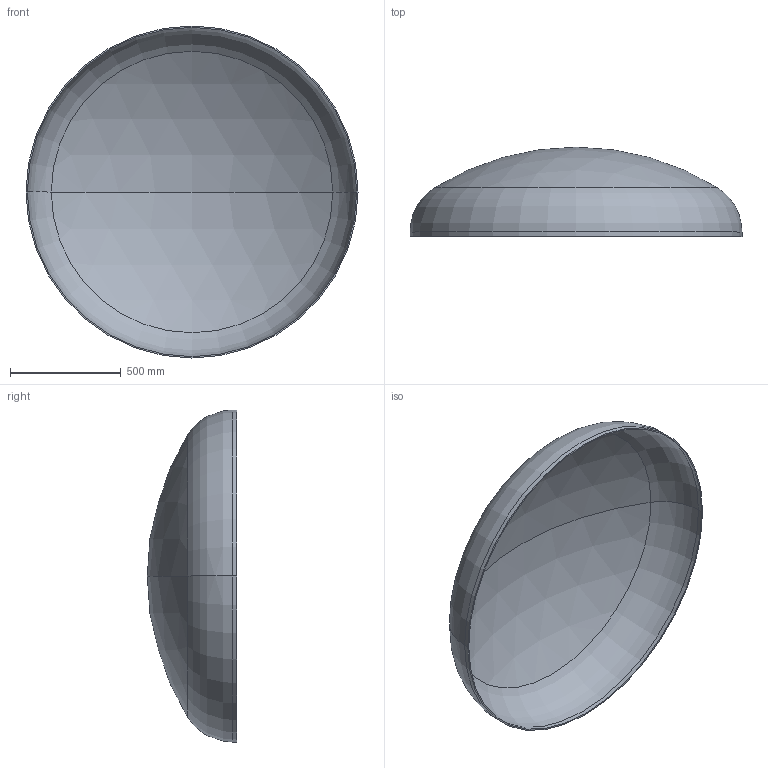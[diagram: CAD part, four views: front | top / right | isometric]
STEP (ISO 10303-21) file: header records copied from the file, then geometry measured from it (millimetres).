
FILE_DESCRIPTION (( 'STEP AP203' ), '1' );
FILE_NAME ('DIN 28013 Korbbogenform_-_Boden DIN 28013 - 1500 x 20 - I - s=6.step', '2016-07-01T10:33:48', ( '' ), ( '' ), 'SwSTEP 2.0', 'SolidWorks 2013', '' );
FILE_SCHEMA (( 'CONFIG_CONTROL_DESIGN' ));
Length unit declared in the file: millimetre
Products named in the file (1): DIN 28013 Korbbogenform_-_Boden DIN 28013 - 1500 x 20 - I - s=6
Bounding box: 1500 x 403.38 x 1500 mm (x, y, z)
Volume: 15159051.2 mm3; surface area: 5081251.7 mm2
Topology: 1 solids, 1 shells, 13 faces, 24 edges, 14 vertices
Faces by surface type: torus 4, cylinder 4, sphere 4, plane 1
Entity records: 407 total; most frequent: DIRECTION 72, CARTESIAN_POINT 52, ORIENTED_EDGE 48, AXIS2_PLACEMENT_3D 34, EDGE_CURVE 24, CIRCLE 20, VERTEX_POINT 14, EDGE_LOOP 14
